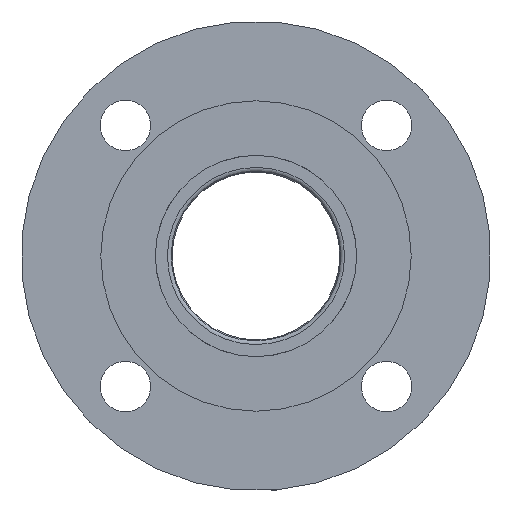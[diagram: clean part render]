
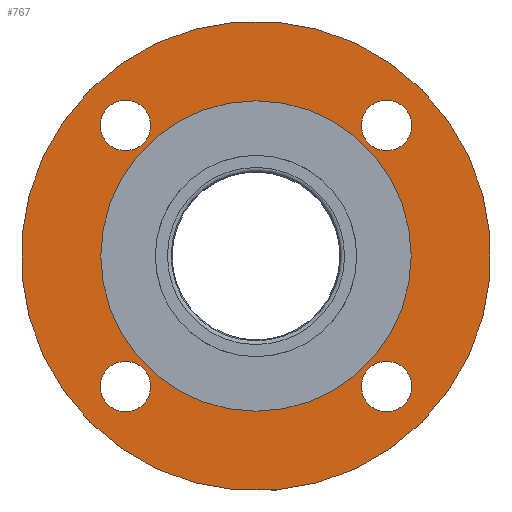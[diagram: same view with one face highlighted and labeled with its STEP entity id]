
A CAD part, front view. The second image highlights one B-rep face of the part: STEP entity #767.
In plain terms, the highlighted planar face has unit normal (0, -1, 0) as drawn and (0, 0, -1) by its records, which use the part's own axes.
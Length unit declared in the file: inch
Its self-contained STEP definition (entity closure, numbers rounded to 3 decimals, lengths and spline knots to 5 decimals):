
#672=CARTESIAN_POINT('',(1.96875,0.,0.0));
#673=VERTEX_POINT('',#672);
#674=CARTESIAN_POINT('',(0.0,0.0,0.0));
#675=DIRECTION('',(0.0,0.0,-1.0));
#676=DIRECTION('',(-1.0,0.0,0.0));
#677=AXIS2_PLACEMENT_3D('',#674,#675,#676);
#678=CIRCLE('',#677,1.96875);
#679=EDGE_CURVE('',#673,#673,#678,.T.);
#704=CARTESIAN_POINT('',(0.0,0.0,0.0));
#705=DIRECTION('',(0.0,0.0,-1.0));
#706=DIRECTION('',(-1.0,0.0,0.0));
#707=AXIS2_PLACEMENT_3D('',#704,#705,#706);
#708=PLANE('',#707);
#709=CARTESIAN_POINT('',(3.5,0.,0.0));
#710=VERTEX_POINT('',#709);
#711=CARTESIAN_POINT('',(0.0,0.0,0.0));
#712=DIRECTION('',(0.0,0.0,-1.0));
#713=DIRECTION('',(-1.0,0.0,0.0));
#714=AXIS2_PLACEMENT_3D('',#711,#712,#713);
#715=CIRCLE('',#714,3.5);
#716=EDGE_CURVE('',#710,#710,#715,.T.);
#717=ORIENTED_EDGE('',*,*,#716,.T.);
#718=EDGE_LOOP('',(#717));
#719=FACE_OUTER_BOUND('',#718,.T.);
#720=CARTESIAN_POINT('',(-0.375,2.75,0.0));
#721=VERTEX_POINT('',#720);
#722=CARTESIAN_POINT('',(0.0,2.75,0.0));
#723=DIRECTION('',(0.0,0.0,1.0));
#724=DIRECTION('',(-1.0,0.0,0.0));
#725=AXIS2_PLACEMENT_3D('',#722,#723,#724);
#726=CIRCLE('',#725,0.375);
#727=EDGE_CURVE('',#721,#721,#726,.T.);
#728=ORIENTED_EDGE('',*,*,#727,.T.);
#729=EDGE_LOOP('',(#728));
#730=FACE_BOUND('',#729,.T.);
#731=CARTESIAN_POINT('',(-2.75,-0.375,0.0));
#732=VERTEX_POINT('',#731);
#733=CARTESIAN_POINT('',(-2.75,0.,0.0));
#734=DIRECTION('',(0.0,0.0,1.0));
#735=DIRECTION('',(0.0,-1.0,0.0));
#736=AXIS2_PLACEMENT_3D('',#733,#734,#735);
#737=CIRCLE('',#736,0.375);
#738=EDGE_CURVE('',#732,#732,#737,.T.);
#739=ORIENTED_EDGE('',*,*,#738,.T.);
#740=EDGE_LOOP('',(#739));
#741=FACE_BOUND('',#740,.T.);
#742=CARTESIAN_POINT('',(0.375,-2.75,0.0));
#743=VERTEX_POINT('',#742);
#744=CARTESIAN_POINT('',(0.,-2.75,0.0));
#745=DIRECTION('',(0.0,0.0,1.0));
#746=DIRECTION('',(1.0,0.0,0.0));
#747=AXIS2_PLACEMENT_3D('',#744,#745,#746);
#748=CIRCLE('',#747,0.375);
#749=EDGE_CURVE('',#743,#743,#748,.T.);
#750=ORIENTED_EDGE('',*,*,#749,.T.);
#751=EDGE_LOOP('',(#750));
#752=FACE_BOUND('',#751,.T.);
#753=CARTESIAN_POINT('',(2.75,0.375,0.0));
#754=VERTEX_POINT('',#753);
#755=CARTESIAN_POINT('',(2.75,0.,0.0));
#756=DIRECTION('',(0.0,0.0,1.0));
#757=DIRECTION('',(0.0,1.0,0.0));
#758=AXIS2_PLACEMENT_3D('',#755,#756,#757);
#759=CIRCLE('',#758,0.375);
#760=EDGE_CURVE('',#754,#754,#759,.T.);
#761=ORIENTED_EDGE('',*,*,#760,.T.);
#762=EDGE_LOOP('',(#761));
#763=FACE_BOUND('',#762,.T.);
#764=ORIENTED_EDGE('',*,*,#679,.F.);
#765=EDGE_LOOP('',(#764));
#766=FACE_BOUND('',#765,.T.);
#767=ADVANCED_FACE('',(#719,#730,#741,#752,#763,#766),#708,.T.);
